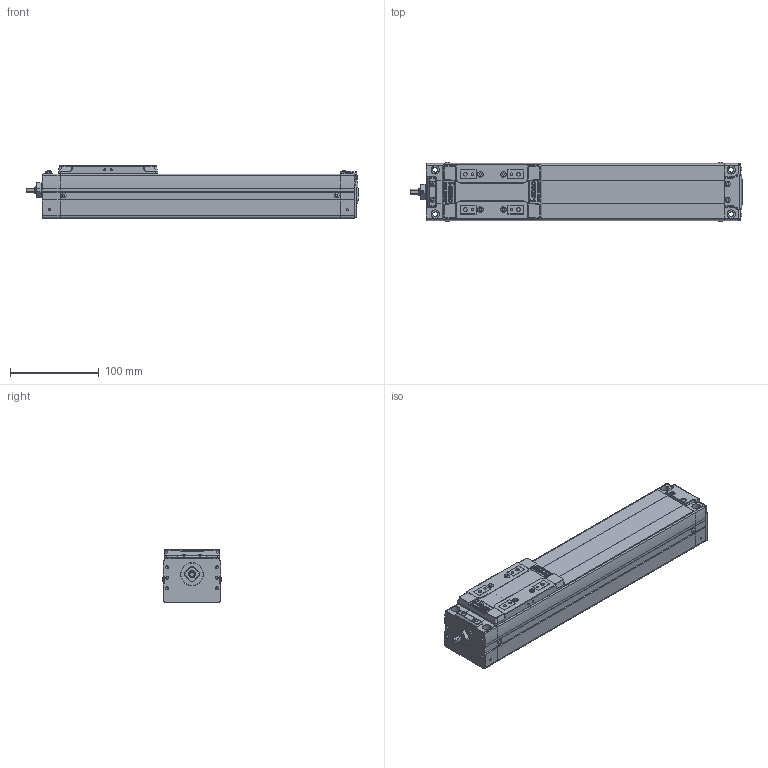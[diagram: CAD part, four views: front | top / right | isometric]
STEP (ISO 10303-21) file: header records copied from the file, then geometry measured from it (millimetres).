
FILE_DESCRIPTION(('STEP AP214'),'1');
FILE_NAME('Z:/Web/3D/SAN65/STP/SAN65ㅁㅁ-200.stp','2012-06-14T04:14:16',(' '),(' '),'Spatial InterOp 3D',' ',' ');
FILE_SCHEMA(('automotive_design'));
Length unit declared in the file: metre
Products named in the file (27): SAN65__-200; BODY-SAN65; REAR-SAN65; RRCV-SAN65; 스크루 : Round - M3.0 x 6.0; FRONT-SAN65; SHAFT-SAN65; RN8 x 0.75; SSFX-SAN65; SLIDE-SAN65; SLCV-SAN65; 스크루 : Countersunk - M3.0 x 6.0
Assembly tree (26 placements, depth 3):
  SAN65__-200
    BODY-SAN65
    REAR-SAN65
      REAR-SAN65
      RRCV-SAN65
      스크루 : Round - M3.0 x 6.0
      스크루 : Round - M3.0 x 6.0
      스크루 : Round - M3.0 x 6.0
      스크루 : Round - M3.0 x 6.0
      스크루 : Round - M3.0 x 6.0
      스크루 : Round - M3.0 x 6.0
    FRONT-SAN65
      FRONT-SAN65
      SHAFT-SAN65
      RN8 x 0.75
      SSFX-SAN65
      스크루 : Round - M3.0 x 6.0
      스크루 : Round - M3.0 x 6.0
      스크루 : Round - M3.0 x 6.0
      스크루 : Round - M3.0 x 6.0
    SLIDE-SAN65
      SLIDE-SAN65
      SLCV-SAN65
      스크루 : Countersunk - M3.0 x 6.0
      스크루 : Countersunk - M3.0 x 6.0
      스크루 : Countersunk - M3.0 x 6.0
      스크루 : Countersunk - M3.0 x 6.0
Bounding box: 374.65 x 67.13 x 60 mm (x, y, z)
Volume: 1157404.3 mm3; surface area: 158120.1 mm2
Topology: 23 solids, 23 shells, 1380 faces, 3579 edges, 2332 vertices
Faces by surface type: plane 842, cylinder 399, cone 73, bspline 26, sphere 22, torus 15, extrusion 3
Full cylindrical faces by diameter (mm): 0.571 x2, 0.706 x1, 1.727 x2, 2.132 x1, 2.2 x4, 2.5 x9, 2.528 x4, 3 x6, 3.121 x2, 3.3 x4, 3.4 x4, 3.5 x6, 4.2 x20, 4.849 x4, 5 x3, 5.5 x4, 5.987 x2, 6 x6, 7 x1, 8 x4, 9.5 x4, 13 x1, 15 x1, 19 x1
Entity records: 56765 total; most frequent: CARTESIAN_POINT 11689, DIRECTION 6989, ORIENTED_EDGE 6664, EDGE_CURVE 3332, AXIS2_PLACEMENT_3D 2354, VERTEX_POINT 2282, VECTOR 2281, LINE 2278
